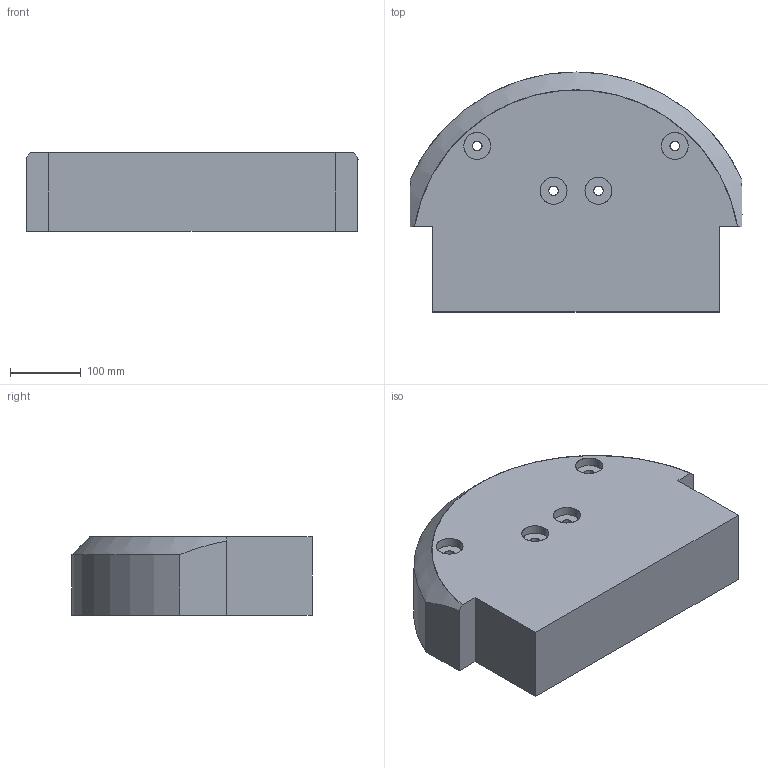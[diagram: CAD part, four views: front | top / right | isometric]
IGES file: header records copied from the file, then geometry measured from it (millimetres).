
Start section: SolidWorks IGES FILE using analytic representation for surfaces
Global section: file name: C:\Dorado\Drawings\ExtendedBatteryMidbody\Drawings\EndFoampack2.IGS; native system: SolidWorks 2003 by SolidWorks Corporation; preprocessor: Version 5.3; author: gashler; date: 030401.134045; units: inch
Bounding box: 469.9 x 339.73 x 111.12 mm (x, y, z)
Surface area: 434612.8 mm2 (no closed solid volume)
Topology: 0 solids, 0 shells, 31 faces, 832 edges, 832 vertices
Faces by surface type: revolution 18, bspline 13
